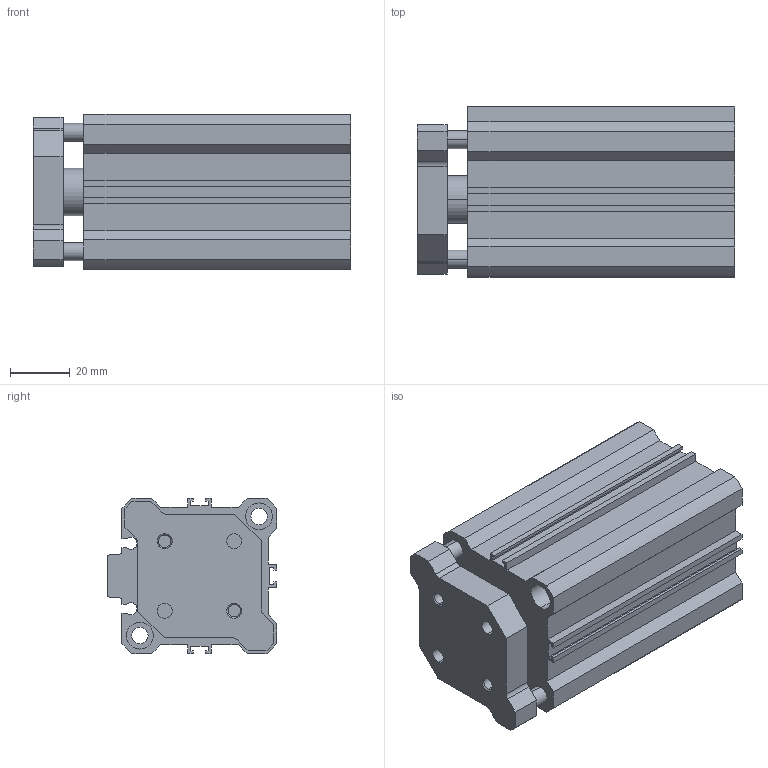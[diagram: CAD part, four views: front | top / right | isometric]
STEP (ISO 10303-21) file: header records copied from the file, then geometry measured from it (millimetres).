
FILE_DESCRIPTION (( 'STEP AP203' ), '1' );
FILE_NAME ('CCMG40-50.STEP', '2020-04-01T18:45:38', ( '' ), ( '' ), 'SwSTEP 2.0', 'SolidWorks 2019', '' );
FILE_SCHEMA (( 'CONFIG_CONTROL_DESIGN' ));
Length unit declared in the file: millimetre
Products named in the file (1): CCMG40-50
Bounding box: 106.5 x 57 x 52 mm (x, y, z)
Volume: 183260.9 mm3; surface area: 62020.9 mm2
Topology: 2 solids, 2 shells, 164 faces, 428 edges, 278 vertices
Faces by surface type: plane 92, cylinder 56, cone 16
Entity records: 5099 total; most frequent: DIRECTION 878, CARTESIAN_POINT 867, ORIENTED_EDGE 848, EDGE_CURVE 424, LINE 300, VECTOR 300, AXIS2_PLACEMENT_3D 289, VERTEX_POINT 278
